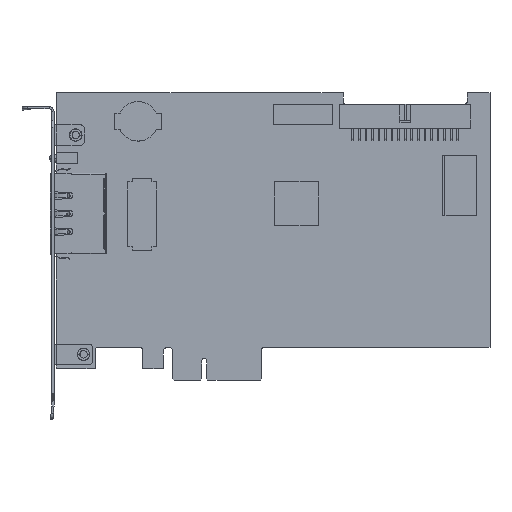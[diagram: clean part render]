
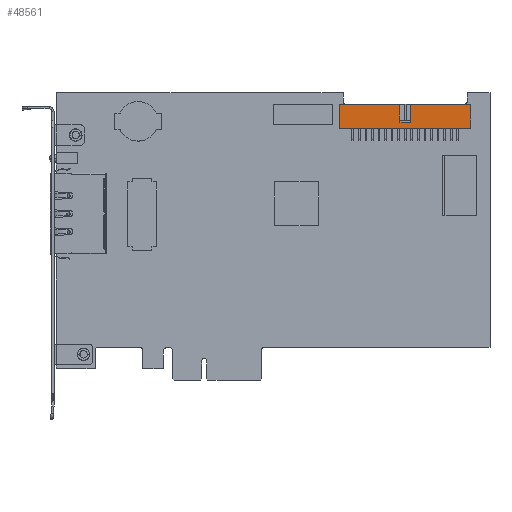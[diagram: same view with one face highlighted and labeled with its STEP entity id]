
A CAD part, top view. The second image highlights one B-rep face of the part: STEP entity #48561.
In plain terms, the highlighted planar face has unit normal (0, 0, 1).
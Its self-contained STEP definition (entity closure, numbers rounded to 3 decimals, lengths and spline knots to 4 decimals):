
#13517=DIRECTION('',(-1.,0.,0.));
#13518=VECTOR('',#13517,0.898);
#13519=CARTESIAN_POINT('',(6.0151,0.0177,
0.3915));
#13520=LINE('',#13519,#13518);
#13549=DIRECTION('',(-1.,0.,0.));
#13550=VECTOR('',#13549,0.898);
#13551=CARTESIAN_POINT('',(4.9131,0.0177,
0.3915));
#13552=LINE('',#13551,#13550);
#13665=DIRECTION('',(-1.,0.,0.));
#13666=VECTOR('',#13665,2.);
#13667=CARTESIAN_POINT('',(6.0151,-0.3475,
0.3915));
#13668=LINE('',#13667,#13666);
#14233=DIRECTION('',(0.,-1.,0.));
#14234=VECTOR('',#14233,0.3651);
#14235=CARTESIAN_POINT('',(4.0151,0.0178,
0.3915));
#14236=LINE('',#14235,#14234);
#14249=DIRECTION('',(1.,0.,0.));
#14250=VECTOR('',#14249,0.16);
#14251=CARTESIAN_POINT('',(4.9351,-0.2524,
0.3915));
#14252=LINE('',#14251,#14250);
#14253=DIRECTION('',(0.,1.,0.));
#14254=VECTOR('',#14253,0.248);
#14255=CARTESIAN_POINT('',(5.0951,-0.2524,
0.3915));
#14256=LINE('',#14255,#14254);
#14257=CARTESIAN_POINT('',(5.1171,-0.0044,
0.3915));
#14258=DIRECTION('',(0.,0.,1.));
#14259=DIRECTION('',(0.,1.,0.));
#14260=AXIS2_PLACEMENT_3D('',#14257,#14258,#14259);
#14262=DIRECTION('',(0.,-1.,0.));
#14263=VECTOR('',#14262,0.3652);
#14264=CARTESIAN_POINT('',(6.0151,0.0177,
0.3915));
#14265=LINE('',#14264,#14263);
#14266=CARTESIAN_POINT('',(4.9131,-0.0044,
0.3915));
#14267=DIRECTION('',(0.,0.,1.));
#14268=DIRECTION('',(1.,0.,0.));
#14269=AXIS2_PLACEMENT_3D('',#14266,#14267,#14268);
#14271=DIRECTION('',(0.,-1.,0.));
#14272=VECTOR('',#14271,0.248);
#14273=CARTESIAN_POINT('',(4.9351,-0.0044,
0.3915));
#14274=LINE('',#14273,#14272);
#23653=CARTESIAN_POINT('',(6.0151,-0.3475,
0.3915));
#23654=CARTESIAN_POINT('',(4.0151,-0.3473,
0.3915));
#23655=VERTEX_POINT('',#23653);
#23656=VERTEX_POINT('',#23654);
#23657=CARTESIAN_POINT('',(4.0151,0.0178,
0.3915));
#23658=VERTEX_POINT('',#23657);
#23659=CARTESIAN_POINT('',(6.0151,0.0177,
0.3915));
#23660=VERTEX_POINT('',#23659);
#23682=CARTESIAN_POINT('',(5.1171,0.0177,
0.3915));
#23684=VERTEX_POINT('',#23682);
#23686=CARTESIAN_POINT('',(4.9131,0.0177,
0.3915));
#23688=VERTEX_POINT('',#23686);
#23689=CARTESIAN_POINT('',(4.9351,-0.2524,
0.3915));
#23690=CARTESIAN_POINT('',(5.0951,-0.2524,
0.3915));
#23691=VERTEX_POINT('',#23689);
#23692=VERTEX_POINT('',#23690);
#23693=CARTESIAN_POINT('',(5.0951,-0.0044,
0.3915));
#23694=VERTEX_POINT('',#23693);
#23695=CARTESIAN_POINT('',(4.9351,-0.0044,
0.3915));
#23696=VERTEX_POINT('',#23695);
#48539=CARTESIAN_POINT('',(6.0151,0.0175,
0.3915));
#48540=DIRECTION('',(0.,0.,1.));
#48541=DIRECTION('',(-1.,0.,0.));
#48542=AXIS2_PLACEMENT_3D('',#48539,#48540,#48541);
#48543=PLANE('',#48542);
#48545=ORIENTED_EDGE('',*,*,#48544,.T.);
#48547=ORIENTED_EDGE('',*,*,#48546,.T.);
#48549=ORIENTED_EDGE('',*,*,#48548,.F.);
#48550=ORIENTED_EDGE('',*,*,#47856,.F.);
#48551=ORIENTED_EDGE('',*,*,#48144,.T.);
#48552=ORIENTED_EDGE('',*,*,#48165,.T.);
#48553=ORIENTED_EDGE('',*,*,#48526,.F.);
#48554=ORIENTED_EDGE('',*,*,#47872,.F.);
#48556=ORIENTED_EDGE('',*,*,#48555,.F.);
#48558=ORIENTED_EDGE('',*,*,#48557,.T.);
#48559=EDGE_LOOP('',(#48545,#48547,#48549,#48550,#48551,#48552,#48553,#48554,
#48556,#48558));
#48560=FACE_OUTER_BOUND('',#48559,.F.);
#48561=ADVANCED_FACE('',(#48560),#48543,.T.);
#14261=CIRCLE('',#14260,0.022);
#14270=CIRCLE('',#14269,0.022);
#47856=EDGE_CURVE('',#23660,#23684,#13520,.T.);
#47872=EDGE_CURVE('',#23688,#23658,#13552,.T.);
#48144=EDGE_CURVE('',#23660,#23655,#14265,.T.);
#48165=EDGE_CURVE('',#23655,#23656,#13668,.T.);
#48526=EDGE_CURVE('',#23658,#23656,#14236,.T.);
#48544=EDGE_CURVE('',#23691,#23692,#14252,.T.);
#48546=EDGE_CURVE('',#23692,#23694,#14256,.T.);
#48548=EDGE_CURVE('',#23684,#23694,#14261,.T.);
#48555=EDGE_CURVE('',#23696,#23688,#14270,.T.);
#48557=EDGE_CURVE('',#23696,#23691,#14274,.T.);
